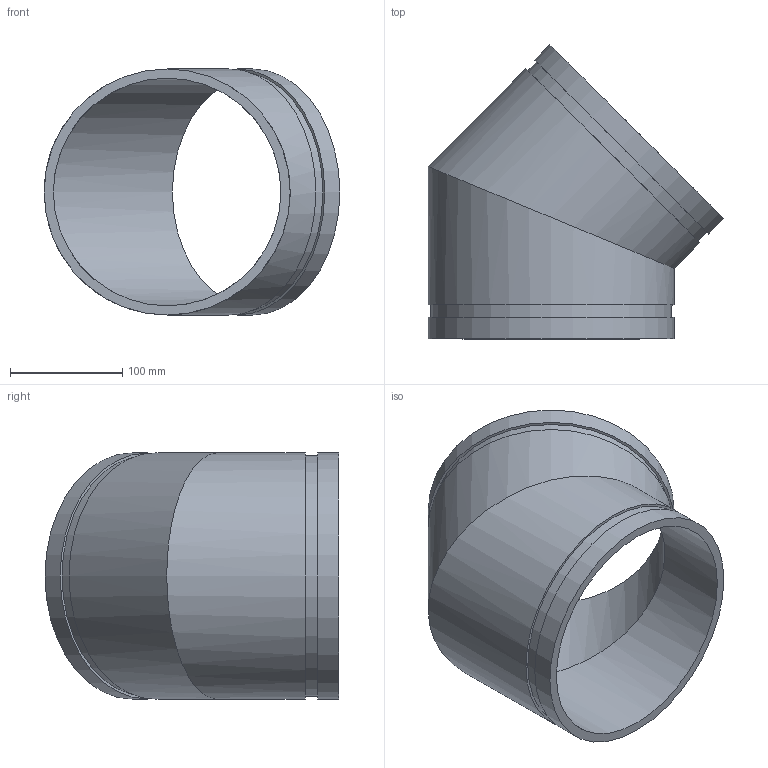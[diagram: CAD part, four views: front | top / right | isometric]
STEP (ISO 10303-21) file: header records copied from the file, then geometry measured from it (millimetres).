
FILE_DESCRIPTION(/* description */ ('VIC 45 DEG FABRICATED ELBOW No 11 SWS (OGS)','CAx-IF Rec.Pracs.---Representation and Presentation of Product Manufacturing Information (PMI)---4.0---2014-10-13'),/* implementation_level */ '2;1');
FILE_NAME(/* name */ 'C:\Users\kkamble\AppData\Roaming\Autodesk\ApplicationPlugins\Back Up\Victaulic_IPS_Elbow 45 Deg_No 11 SWS (OGS)\Victaulic_IPS_Elbow 45 Deg_No 11 SWS (OGS)_8 (200).stp',/* time_stamp */ '2020-09-16T22:14:51+06:00',/* author */ ('cgray'),/* organization */ ('Victaulic'),/* preprocessor_version */ 'ST-DEVELOPER v17.2',/* originating_system */ 'Autodesk Inventor 2019',/* authorisation */ '');
FILE_SCHEMA (('AP242_MANAGED_MODEL_BASED_3D_ENGINEERING_MIM_LF { 1 0 10303 442 1 1 4 }'));
Length unit declared in the file: inch
Products named in the file (1): 11 SWS-08.0
Bounding box: 263.32 x 261.74 x 219.07 mm (x, y, z)
Volume: 1134529.4 mm3; surface area: 302964.7 mm2
Topology: 1 solids, 1 shells, 14 faces, 30 edges, 22 vertices
Faces by surface type: cylinder 8, plane 6
Full cylindrical faces by diameter (mm): 202.717 x2, 214.401 x2, 219.075 x4
Entity records: 554 total; most frequent: DIRECTION 108, CARTESIAN_POINT 84, ORIENTED_EDGE 60, AXIS2_PLACEMENT_3D 50, EDGE_CURVE 30, VERTEX_POINT 22, EDGE_LOOP 20, CIRCLE 16
